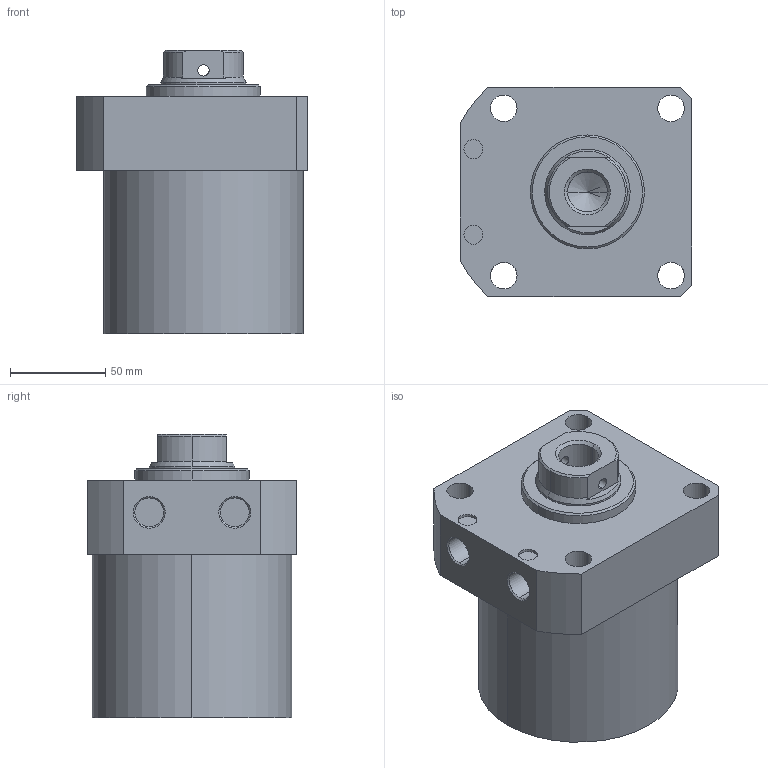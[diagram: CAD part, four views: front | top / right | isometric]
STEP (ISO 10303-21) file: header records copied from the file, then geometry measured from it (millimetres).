
FILE_DESCRIPTION (( 'STEP AP203' ), '1' );
FILE_NAME ('CLLR-105CB-065.STEP', '2019-12-19T01:45:56', ( '' ), ( '' ), 'SwSTEP 2.0', 'SolidWorks 2015', '' );
FILE_SCHEMA (( 'CONFIG_CONTROL_DESIGN' ));
Length unit declared in the file: millimetre
Products named in the file (1): CLLR-105CB-065
Bounding box: 122 x 110 x 149 mm (x, y, z)
Volume: 1246752.7 mm3; surface area: 86323.5 mm2
Topology: 1 solids, 1 shells, 67 faces, 160 edges, 101 vertices
Faces by surface type: cylinder 33, plane 19, cone 15
Entity records: 2165 total; most frequent: CARTESIAN_POINT 471, DIRECTION 358, ORIENTED_EDGE 316, EDGE_CURVE 158, AXIS2_PLACEMENT_3D 144, VERTEX_POINT 101, EDGE_LOOP 87, CIRCLE 76
